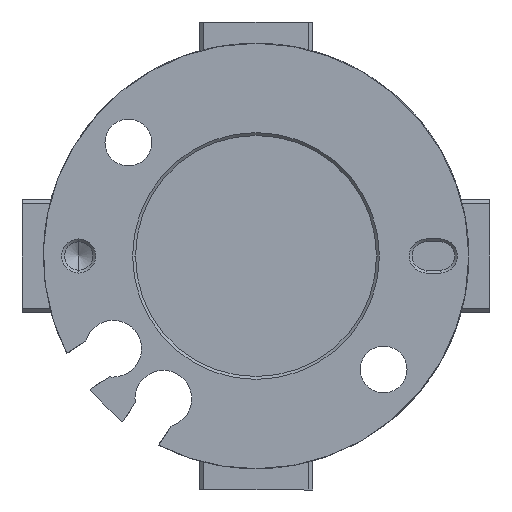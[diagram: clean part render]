
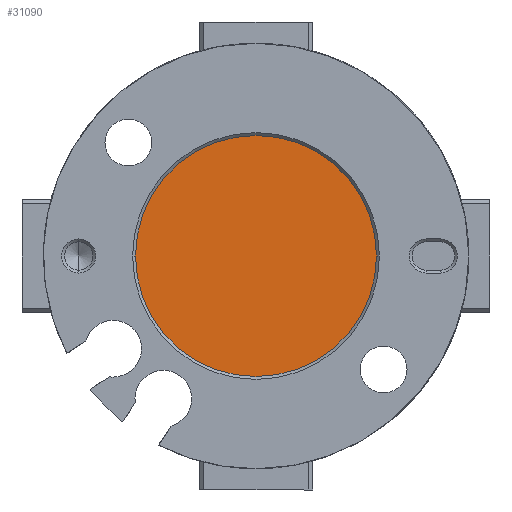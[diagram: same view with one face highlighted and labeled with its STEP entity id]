
A CAD part, front view. The second image highlights one B-rep face of the part: STEP entity #31090.
In plain terms, the highlighted planar face has unit normal (0, -1, 0).
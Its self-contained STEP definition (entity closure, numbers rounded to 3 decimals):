
#9015 = CARTESIAN_POINT ( 'NONE',  ( 0., 1.5, 0. ) ) ;
#12772 = EDGE_CURVE ( 'NONE', #38851, #39454, #29824, .T. ) ;
#14173 = DIRECTION ( 'NONE',  ( 0., 0., -1. ) ) ;
#14857 = DIRECTION ( 'NONE',  ( 0., -1., 0. ) ) ;
#16583 = FACE_OUTER_BOUND ( 'NONE', #52921, .T. ) ;
#20966 = CARTESIAN_POINT ( 'NONE',  ( 0., 1.5, 8.5 ) ) ;
#21178 = AXIS2_PLACEMENT_3D ( 'NONE', #9015, #44894, #14173 ) ;
#21735 = AXIS2_PLACEMENT_3D ( 'NONE', #45580, #14857, #50753 ) ;
#22140 = PLANE ( 'NONE',  #32336 ) ;
#27329 = DIRECTION ( 'NONE',  ( 0., 0., -1. ) ) ;
#29824 = CIRCLE ( 'NONE', #21178, 8.5 ) ;
#31090 = ADVANCED_FACE ( 'NONE', ( #16583 ), #22140, .T. ) ;
#32336 = AXIS2_PLACEMENT_3D ( 'NONE', #63044, #58073, #27329 ) ;
#36545 = CIRCLE ( 'NONE', #21735, 8.5 ) ;
#38443 = ORIENTED_EDGE ( 'NONE', *, *, #12772, .T. ) ;
#38851 = VERTEX_POINT ( 'NONE', #20966 ) ;
#38919 = CARTESIAN_POINT ( 'NONE',  ( 0., 1.5, -8.5 ) ) ;
#39454 = VERTEX_POINT ( 'NONE', #38919 ) ;
#39575 = EDGE_CURVE ( 'NONE', #39454, #38851, #36545, .T. ) ;
#42256 = ORIENTED_EDGE ( 'NONE', *, *, #39575, .T. ) ;
#44894 = DIRECTION ( 'NONE',  ( 0., -1., 0. ) ) ;
#45580 = CARTESIAN_POINT ( 'NONE',  ( 0., 1.5, 0. ) ) ;
#50753 = DIRECTION ( 'NONE',  ( 0., 0., -1. ) ) ;
#52921 = EDGE_LOOP ( 'NONE', ( #42256, #38443 ) ) ;
#58073 = DIRECTION ( 'NONE',  ( 0., -1., 0. ) ) ;
#63044 = CARTESIAN_POINT ( 'NONE',  ( 0., 1.5, 0. ) ) ;
